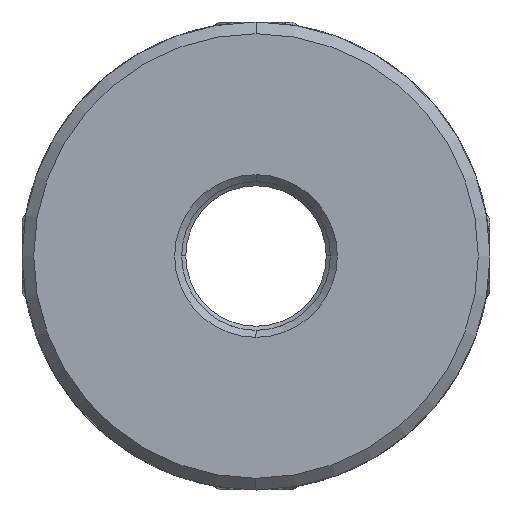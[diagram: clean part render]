
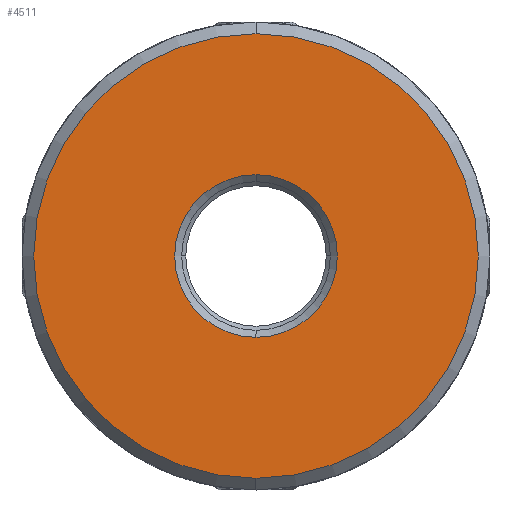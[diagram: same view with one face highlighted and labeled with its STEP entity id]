
A CAD part, front view. The second image highlights one B-rep face of the part: STEP entity #4511.
In plain terms, the highlighted planar face has unit normal (0, -1, 0).
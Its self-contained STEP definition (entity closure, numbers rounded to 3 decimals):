
#456 = CARTESIAN_POINT ( 'NONE',  ( 0., -23., 0. ) ) ;
#1065 = DIRECTION ( 'NONE',  ( 0., 0., -1. ) ) ;
#1230 = DIRECTION ( 'NONE',  ( 0., 0., -1. ) ) ;
#1297 = EDGE_CURVE ( 'NONE', #7367, #1735, #6600, .T. ) ;
#1448 = VERTEX_POINT ( 'NONE', #5733 ) ;
#1687 = AXIS2_PLACEMENT_3D ( 'NONE', #4857, #4122, #9423 ) ;
#1735 = VERTEX_POINT ( 'NONE', #2092 ) ;
#2055 = DIRECTION ( 'NONE',  ( 0., -1., 0. ) ) ;
#2092 = CARTESIAN_POINT ( 'NONE',  ( 0., -23., -3.475 ) ) ;
#2419 = CIRCLE ( 'NONE', #8846, 9.5 ) ;
#2588 = VERTEX_POINT ( 'NONE', #5375 ) ;
#3139 = EDGE_CURVE ( 'NONE', #1448, #2588, #9054, .T. ) ;
#3156 = EDGE_CURVE ( 'NONE', #2588, #1448, #2419, .T. ) ;
#3268 = AXIS2_PLACEMENT_3D ( 'NONE', #5685, #9435, #1065 ) ;
#3279 = DIRECTION ( 'NONE',  ( 0., 0., -1. ) ) ;
#3432 = CARTESIAN_POINT ( 'NONE',  ( 0., -23., 0. ) ) ;
#3570 = CARTESIAN_POINT ( 'NONE',  ( 0., -23., 0. ) ) ;
#4122 = DIRECTION ( 'NONE',  ( 0., 1., 0. ) ) ;
#4511 = ADVANCED_FACE ( 'NONE', ( #7733, #6783 ), #8670, .F. ) ;
#4588 = EDGE_LOOP ( 'NONE', ( #9695, #5203 ) ) ;
#4857 = CARTESIAN_POINT ( 'NONE',  ( 50., -23., -15.365 ) ) ;
#4975 = DIRECTION ( 'NONE',  ( 0., -1., 0. ) ) ;
#5203 = ORIENTED_EDGE ( 'NONE', *, *, #3156, .T. ) ;
#5261 = CIRCLE ( 'NONE', #3268, 3.475 ) ;
#5375 = CARTESIAN_POINT ( 'NONE',  ( 0., -23., 9.5 ) ) ;
#5391 = AXIS2_PLACEMENT_3D ( 'NONE', #456, #6200, #3279 ) ;
#5685 = CARTESIAN_POINT ( 'NONE',  ( 0., -23., 0. ) ) ;
#5733 = CARTESIAN_POINT ( 'NONE',  ( 0., -23., -9.5 ) ) ;
#5982 = EDGE_LOOP ( 'NONE', ( #9574, #6604 ) ) ;
#6200 = DIRECTION ( 'NONE',  ( 0., 1., 0. ) ) ;
#6600 = CIRCLE ( 'NONE', #5391, 3.475 ) ;
#6604 = ORIENTED_EDGE ( 'NONE', *, *, #8748, .T. ) ;
#6783 = FACE_OUTER_BOUND ( 'NONE', #4588, .T. ) ;
#7367 = VERTEX_POINT ( 'NONE', #8875 ) ;
#7733 = FACE_BOUND ( 'NONE', #5982, .T. ) ;
#7956 = AXIS2_PLACEMENT_3D ( 'NONE', #3570, #2055, #1230 ) ;
#7980 = DIRECTION ( 'NONE',  ( 0., 0., -1. ) ) ;
#8670 = PLANE ( 'NONE',  #1687 ) ;
#8748 = EDGE_CURVE ( 'NONE', #1735, #7367, #5261, .T. ) ;
#8846 = AXIS2_PLACEMENT_3D ( 'NONE', #3432, #4975, #7980 ) ;
#8875 = CARTESIAN_POINT ( 'NONE',  ( 0., -23., 3.475 ) ) ;
#9054 = CIRCLE ( 'NONE', #7956, 9.5 ) ;
#9423 = DIRECTION ( 'NONE',  ( 0., 0., -1. ) ) ;
#9435 = DIRECTION ( 'NONE',  ( 0., 1., 0. ) ) ;
#9574 = ORIENTED_EDGE ( 'NONE', *, *, #1297, .T. ) ;
#9695 = ORIENTED_EDGE ( 'NONE', *, *, #3139, .T. ) ;
